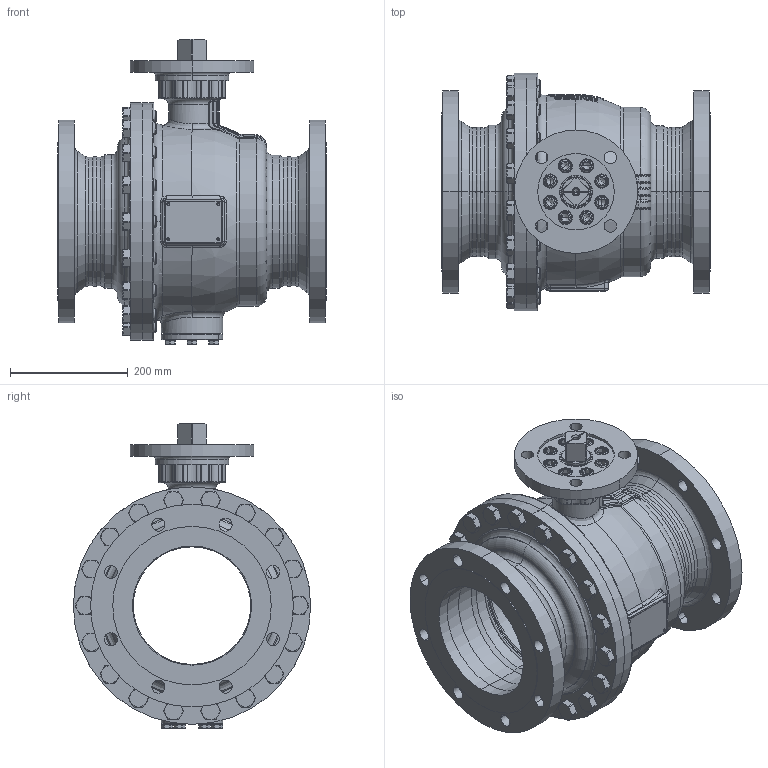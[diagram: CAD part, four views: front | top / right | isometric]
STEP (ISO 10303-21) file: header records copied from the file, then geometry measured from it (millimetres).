
FILE_DESCRIPTION((''),'2;1');
FILE_NAME('KHI-F_200_CL150-F16-4_SW0001','2026-02-05T13:30:30',('fischerkl'),('KLINGER'),'CREO PARAMETRIC BY PTC INC, 2023014','CREO PARAMETRIC BY PTC INC, 2023014','');
FILE_SCHEMA(('CONFIG_CONTROL_DESIGN'));
Products named in the file (1): KHI-F_200_CL150-F16-4_SW0001
Bounding box: 457 x 404 x 519.2 mm (x, y, z)
Volume: 13521884.3 mm3; surface area: 2273797.3 mm2
Topology: 1 solids, 4 shells, 3792 faces, 9674 edges, 6025 vertices
Faces by surface type: plane 2303, cylinder 698, cone 364, torus 289, bspline 108, sphere 30
Entity records: 147693 total; most frequent: CARTESIAN_POINT 58146, ORIENTED_EDGE 19296, DIRECTION 17777, EDGE_CURVE 9648, AXIS2_PLACEMENT_3D 6302, VERTEX_POINT 6025, VECTOR 5173, LINE 5173
